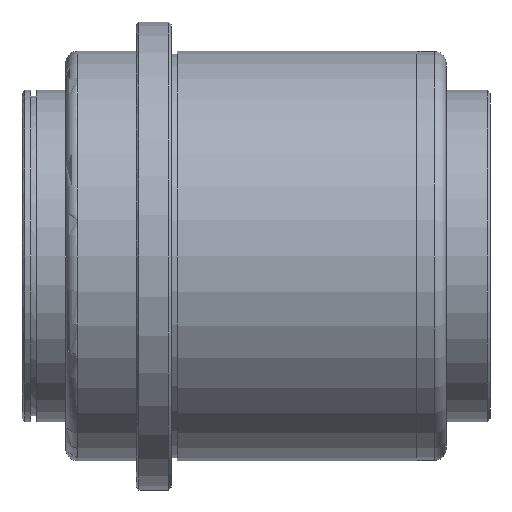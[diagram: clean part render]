
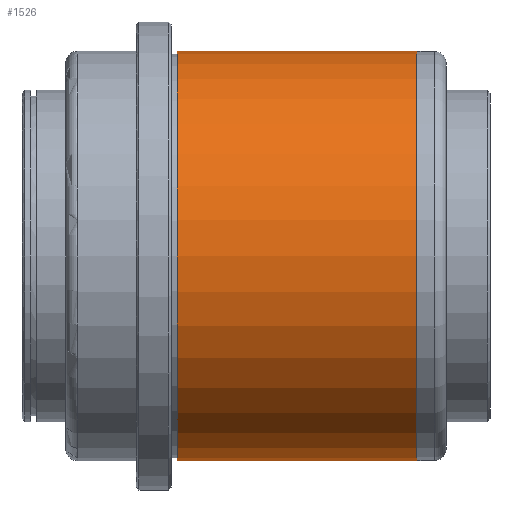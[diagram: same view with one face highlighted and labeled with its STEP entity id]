
A CAD part, front view. The second image highlights one B-rep face of the part: STEP entity #1526.
In plain terms, the highlighted cylindrical face has radius 35 mm (diameter 70 mm), a partial arc.
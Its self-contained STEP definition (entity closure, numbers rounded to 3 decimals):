
#1360=CARTESIAN_POINT('Vertex',(60.,0.,35.)) ;
#1363=CARTESIAN_POINT('Axis2P3D Location',(60.,0.,0.)) ;
#1367=CARTESIAN_POINT('Vertex',(60.,-35.,0.)) ;
#1370=CARTESIAN_POINT('Axis2P3D Location',(60.,0.,0.)) ;
#1374=CARTESIAN_POINT('Vertex',(60.,0.,-35.)) ;
#1466=CARTESIAN_POINT('Line Origine',(65.,0.,35.)) ;
#1470=CARTESIAN_POINT('Vertex',(19.,0.,35.)) ;
#1473=CARTESIAN_POINT('Line Origine',(65.,0.,-35.)) ;
#1477=CARTESIAN_POINT('Vertex',(19.,0.,-35.)) ;
#1501=CARTESIAN_POINT('Axis2P3D Location',(65.,0.,0.)) ;
#1506=CARTESIAN_POINT('Axis2P3D Location',(19.,0.,0.)) ;
#1510=CARTESIAN_POINT('Vertex',(19.,-35.,0.)) ;
#1513=CARTESIAN_POINT('Axis2P3D Location',(19.,0.,0.)) ;
#1364=DIRECTION('Axis2P3D Direction',(1.,0.,-0.)) ;
#1371=DIRECTION('Axis2P3D Direction',(1.,0.,-0.)) ;
#1467=DIRECTION('Vector Direction',(-1.,0.,0.)) ;
#1474=DIRECTION('Vector Direction',(-1.,0.,0.)) ;
#1502=DIRECTION('Axis2P3D Direction',(-1.,-0.,-0.)) ;
#1503=DIRECTION('Axis2P3D XDirection',(0.,0.,-1.)) ;
#1507=DIRECTION('Axis2P3D Direction',(-1.,-0.,-0.)) ;
#1514=DIRECTION('Axis2P3D Direction',(-1.,-0.,-0.)) ;
#1365=AXIS2_PLACEMENT_3D('Circle Axis2P3D',#1363,#1364,$) ;
#1372=AXIS2_PLACEMENT_3D('Circle Axis2P3D',#1370,#1371,$) ;
#1504=AXIS2_PLACEMENT_3D('Cylinder Axis2P3D',#1501,#1502,#1503) ;
#1508=AXIS2_PLACEMENT_3D('Circle Axis2P3D',#1506,#1507,$) ;
#1515=AXIS2_PLACEMENT_3D('Circle Axis2P3D',#1513,#1514,$) ;
#1519=ORIENTED_EDGE('',*,*,#1479,.T.) ;
#1520=ORIENTED_EDGE('',*,*,#1376,.F.) ;
#1521=ORIENTED_EDGE('',*,*,#1369,.F.) ;
#1522=ORIENTED_EDGE('',*,*,#1472,.T.) ;
#1523=ORIENTED_EDGE('',*,*,#1512,.T.) ;
#1524=ORIENTED_EDGE('',*,*,#1517,.T.) ;
#1468=VECTOR('Line Direction',#1467,1.) ;
#1475=VECTOR('Line Direction',#1474,1.) ;
#1526=ADVANCED_FACE('732-50',(#1525),#1505,.T.) ;
#1366=CIRCLE('generated circle',#1365,35.) ;
#1373=CIRCLE('generated circle',#1372,35.) ;
#1509=CIRCLE('generated circle',#1508,35.) ;
#1516=CIRCLE('generated circle',#1515,35.) ;
#1505=CYLINDRICAL_SURFACE('generated cylinder',#1504,35.) ;
#1369=EDGE_CURVE('',#1361,#1368,#1366,.T.) ;
#1376=EDGE_CURVE('',#1368,#1375,#1373,.T.) ;
#1472=EDGE_CURVE('',#1361,#1471,#1469,.T.) ;
#1479=EDGE_CURVE('',#1478,#1375,#1476,.F.) ;
#1512=EDGE_CURVE('',#1471,#1511,#1509,.F.) ;
#1517=EDGE_CURVE('',#1511,#1478,#1516,.F.) ;
#1518=EDGE_LOOP('',(#1519,#1520,#1521,#1522,#1523,#1524)) ;
#1525=FACE_OUTER_BOUND('',#1518,.T.) ;
#1469=LINE('Line',#1466,#1468) ;
#1476=LINE('Line',#1473,#1475) ;
#1361=VERTEX_POINT('',#1360) ;
#1368=VERTEX_POINT('',#1367) ;
#1375=VERTEX_POINT('',#1374) ;
#1471=VERTEX_POINT('',#1470) ;
#1478=VERTEX_POINT('',#1477) ;
#1511=VERTEX_POINT('',#1510) ;
